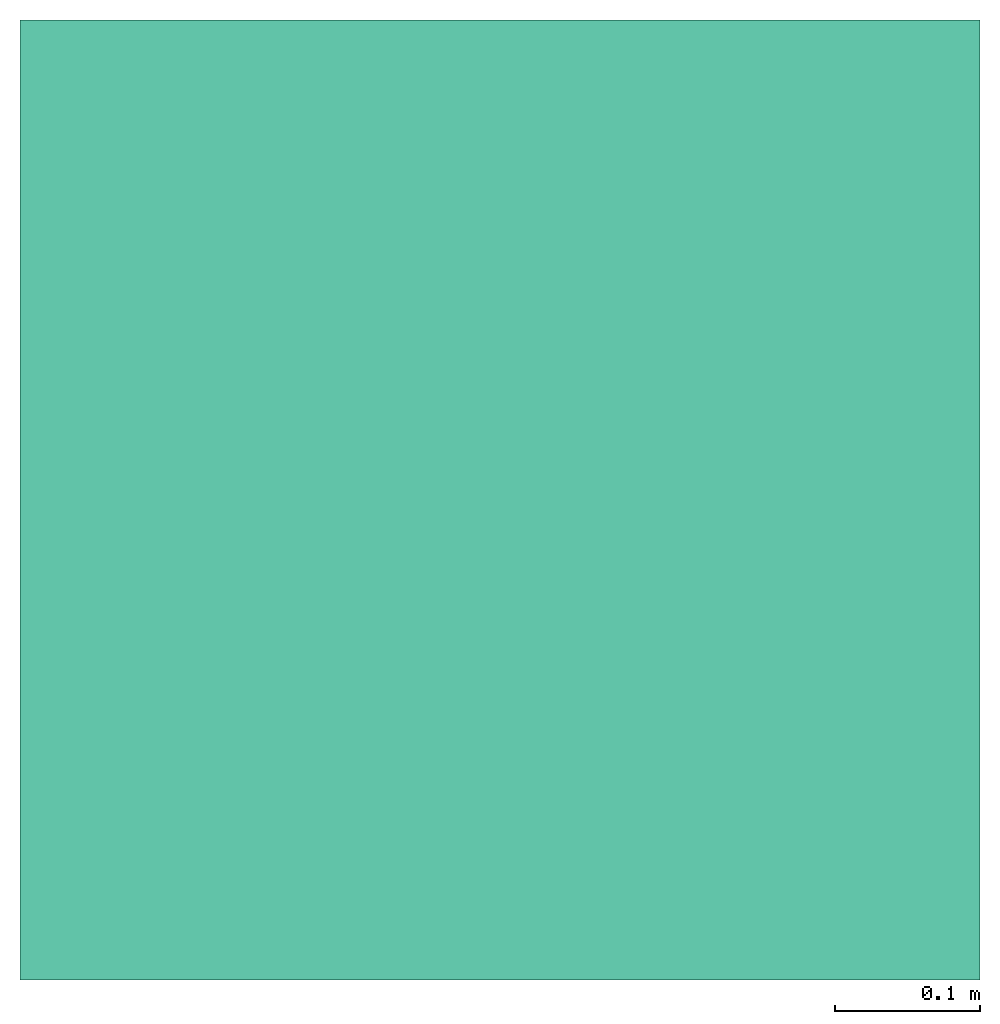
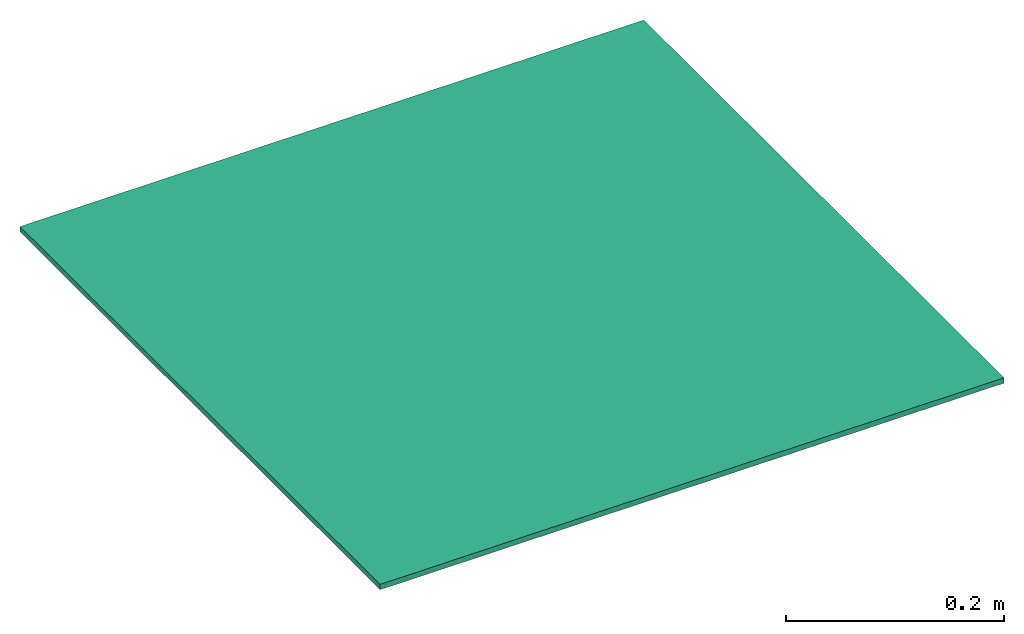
# One storey: 1 flow terminal.
"""IFC2X3 building model written with IfcOpenShell, lengths in millimetres."""

from ifc_helpers import new_model, entity, si_unit, converted_unit, derived_unit, direction, frame, origin_with_axes, place, context, subcontext, project, spatial, open_shell, surface_model, source, transform, mapped, type_object, element, save


model = new_model("IFC2X3")

# Units and contexts
model_context = context("Model", 3, precision=0.01, world=frame((0.0, 4.29681676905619e-09, 0.0)), true_north=direction((4.01073788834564e-13, 1.0)))
plan_context = context("Plan", 3, precision=0.01, world=frame((0.0, 4.29681676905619e-09, 0.0)), true_north=direction((4.01073788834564e-13, 1.0)))
body_context = subcontext(model_context, "Body", "Model", "MODEL_VIEW")
ifc_project = project(units=[converted_unit("PLANEANGLEUNIT", "DEGREE", entity("IfcPositiveLengthMeasure", 0.0174532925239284), si_unit("PLANEANGLEUNIT", "RADIAN"), dimensions=[0, 0, 0, 0, 0, 0, 0]), si_unit("AREAUNIT", "SQUARE_METRE"), si_unit("LENGTHUNIT", "METRE", prefix="MILLI"), si_unit("MASSUNIT", "GRAM", prefix="KILO"), si_unit("POWERUNIT", "WATT"), si_unit("PRESSUREUNIT", "PASCAL"), si_unit("FORCEUNIT", "NEWTON", prefix="KILO"), si_unit("ELECTRICVOLTAGEUNIT", "VOLT"), si_unit("ELECTRICCURRENTUNIT", "AMPERE"), si_unit("THERMODYNAMICTEMPERATUREUNIT", "DEGREE_CELSIUS"), si_unit("TIMEUNIT", "SECOND"), si_unit("VOLUMEUNIT", "CUBIC_METRE"), derived_unit("LINEARVELOCITYUNIT", [(si_unit("LENGTHUNIT", "METRE"), 1), (si_unit("TIMEUNIT", "SECOND"), -1)]), derived_unit("VOLUMETRICFLOWRATEUNIT", [(si_unit("VOLUMEUNIT", "CUBIC_METRE"), 1), (si_unit("TIMEUNIT", "SECOND"), -1)]), derived_unit("THERMALTRANSMITTANCEUNIT", [(si_unit("POWERUNIT", "WATT"), 1), (si_unit("THERMODYNAMICTEMPERATUREUNIT", "KELVIN"), -1), (si_unit("AREAUNIT", "SQUARE_METRE"), -1)]), derived_unit("SOUNDPRESSUREUNIT", [(si_unit("PRESSUREUNIT", "PASCAL"), 1)])], contexts=[model_context, plan_context])

# Site, building, storey
site_placement = place(None, frame((0.0, -4.29681676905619e-09, 0.0), z_axis=(0.0, 0.0, 1.0), x_axis=(1.0, 0.0, 0.0)))
site = spatial("IfcSite", under=ifc_project, at=site_placement, Name="ENGM", CompositionType="ELEMENT")
building_placement = place(site_placement, frame((0.0, 4.29681676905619e-09, 0.0), z_axis=(0.0, 0.0, 1.0), x_axis=(1.0, 0.0, 0.0)))
building = spatial("IfcBuilding", under=site, at=building_placement, Name="TI", CompositionType="ELEMENT")
storey_placement = place(building_placement, frame((0.0, 0.0, 210200.0), z_axis=(0.0, 0.0, 1.0), x_axis=(1.0, 0.0, 0.0)))
storey = spatial("IfcBuildingStorey", under=building, at=storey_placement, Name="Nivå F - 0,7 m", CompositionType="ELEMENT", Elevation=210200.0)

# Flow terminal
air_terminal_type = type_object("IfcAirTerminalType", Name="BRTR-600-600", PredefinedType="NOTDEFINED")
shared_shape = source(origin_with_axes(), body_context, "Body", "SurfaceModel", [
    surface_model("IfcShellBasedSurfaceModel", [(0.0, -329.99999, 329.99999), (6.0, -329.99999, 329.99999), (6.0, 329.99999, 329.99999), (0.0, 329.99999, 329.99999), (0.0, 329.99999, -329.99999), (6.0, 329.99999, -329.99999), (6.0, -329.99999, -329.99999), (0.0, -329.99999, -329.99999)], [open_shell([[[0, 1, 2]], [[2, 3, 0]], [[4, 5, 6]], [[6, 7, 4]], [[2, 1, 6]], [[6, 5, 2]], [[3, 2, 5]], [[5, 4, 3]], [[0, 3, 4]], [[4, 7, 0]], [[1, 0, 7]], [[7, 6, 1]]])]),
])
flow_terminal_placement = place(storey_placement, frame((610709.72475, 693197.98838, 3022.5), z_axis=(1.0, 0.0, 0.0), x_axis=(0.0, 0.0, -1.0)))
element("IfcFlowTerminal", 1, at=flow_terminal_placement, inside=storey, type_object=air_terminal_type, Name="BRTR-600-600", context=body_context, shape_type="MappedRepresentation", body=[
    mapped(shared_shape, transform((0.0, 0.0, 0.0), scale=1.0)),
])

save(model, "model.ifc")
